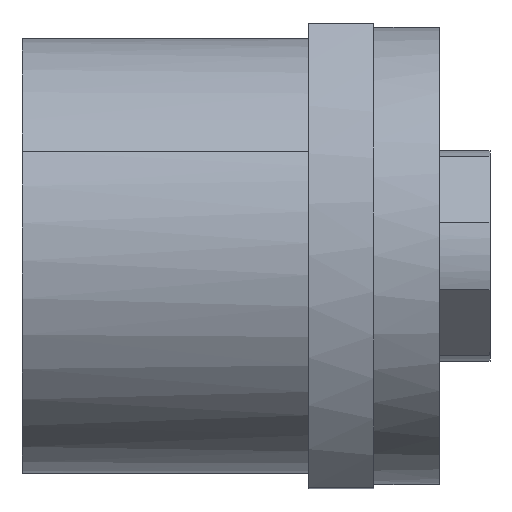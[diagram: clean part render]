
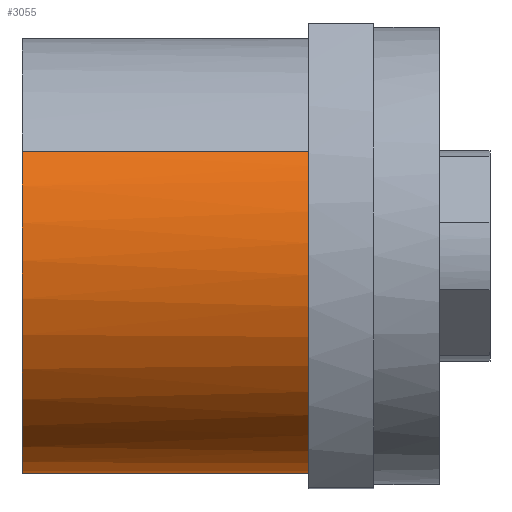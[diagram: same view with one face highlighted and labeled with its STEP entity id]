
A CAD part, top view. The second image highlights one B-rep face of the part: STEP entity #3055.
In plain terms, the highlighted cylindrical face has radius 60 mm (diameter 120 mm), a partial arc.
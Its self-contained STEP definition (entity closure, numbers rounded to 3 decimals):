
#1923=CARTESIAN_POINT('Vertex',(-18.,28.766,52.655)) ;
#1925=CARTESIAN_POINT('Vertex',(-18.,-28.766,-52.655)) ;
#1929=CARTESIAN_POINT('Control Point',(-18.,-28.766,-52.655)) ;
#1930=CARTESIAN_POINT('Control Point',(-18.,-33.761,-49.926)) ;
#1931=CARTESIAN_POINT('Control Point',(-18.,-38.432,-46.605)) ;
#1932=CARTESIAN_POINT('Control Point',(-18.,-42.687,-42.742)) ;
#1933=CARTESIAN_POINT('Control Point',(-18.,-50.198,-34.082)) ;
#1934=CARTESIAN_POINT('Control Point',(-18.,-55.476,-23.905)) ;
#1935=CARTESIAN_POINT('Control Point',(-18.,-57.497,-18.526)) ;
#1936=CARTESIAN_POINT('Control Point',(-18.,-60.223,-7.391)) ;
#1937=CARTESIAN_POINT('Control Point',(-18.,-60.27,4.073)) ;
#1938=CARTESIAN_POINT('Control Point',(-18.,-59.61,9.781)) ;
#1939=CARTESIAN_POINT('Control Point',(-18.,-56.95,20.932)) ;
#1940=CARTESIAN_POINT('Control Point',(-18.,-51.755,31.152)) ;
#1941=CARTESIAN_POINT('Control Point',(-18.,-48.561,35.929)) ;
#1942=CARTESIAN_POINT('Control Point',(-18.,-41.101,44.633)) ;
#1943=CARTESIAN_POINT('Control Point',(-18.,-31.813,51.352)) ;
#1944=CARTESIAN_POINT('Control Point',(-18.,-26.789,54.142)) ;
#1945=CARTESIAN_POINT('Control Point',(-18.,-16.177,58.479)) ;
#1946=CARTESIAN_POINT('Control Point',(-18.,-4.845,60.213)) ;
#1947=CARTESIAN_POINT('Control Point',(-18.,0.898,60.401)) ;
#1948=CARTESIAN_POINT('Control Point',(-18.,10.167,59.598)) ;
#1949=CARTESIAN_POINT('Control Point',(-18.,19.074,57.054)) ;
#1950=CARTESIAN_POINT('Control Point',(-18.,22.415,55.826)) ;
#1951=CARTESIAN_POINT('Control Point',(-18.,25.653,54.355)) ;
#1952=CARTESIAN_POINT('Control Point',(-18.,28.766,52.655)) ;
#3013=CARTESIAN_POINT('Line Origine',(-82.781,28.766,52.655)) ;
#3017=CARTESIAN_POINT('Vertex',(-97.,28.766,52.655)) ;
#3020=CARTESIAN_POINT('Line Origine',(-82.781,-28.766,-52.655)) ;
#3024=CARTESIAN_POINT('Vertex',(-97.,-28.766,-52.655)) ;
#3039=CARTESIAN_POINT('Axis2P3D Location',(-82.781,0.,0.)) ;
#3044=CARTESIAN_POINT('Axis2P3D Location',(-97.,0.,0.)) ;
#3014=DIRECTION('Vector Direction',(-1.,0.,0.)) ;
#3021=DIRECTION('Vector Direction',(-1.,0.,0.)) ;
#3040=DIRECTION('Axis2P3D Direction',(-1.,0.,0.)) ;
#3041=DIRECTION('Axis2P3D XDirection',(0.,-0.479,-0.878)) ;
#3045=DIRECTION('Axis2P3D Direction',(-1.,0.,0.)) ;
#3042=AXIS2_PLACEMENT_3D('Cylinder Axis2P3D',#3039,#3040,#3041) ;
#3046=AXIS2_PLACEMENT_3D('Circle Axis2P3D',#3044,#3045,$) ;
#3050=ORIENTED_EDGE('',*,*,#3026,.F.) ;
#3051=ORIENTED_EDGE('',*,*,#1953,.T.) ;
#3052=ORIENTED_EDGE('',*,*,#3019,.T.) ;
#3053=ORIENTED_EDGE('',*,*,#3048,.T.) ;
#3015=VECTOR('Line Direction',#3014,1.) ;
#3022=VECTOR('Line Direction',#3021,1.) ;
#3055=ADVANCED_FACE('FK40DFF(H)',(#3054),#3043,.T.) ;
#1928=B_SPLINE_CURVE_WITH_KNOTS('',5,(#1929,#1930,#1931,#1932,#1933,#1934,#1935,#1936,#1937,#1938,#1939,#1940,#1941,#1942,#1943,#1944,#1945,#1946,#1947,#1948,#1949,#1950,#1951,#1952),.UNSPECIFIED.,.F.,.U.,(6,3,3,3,3,3,3,6),(0.,40.249,80.498,120.747,160.995,201.244,241.493,266.571),.UNSPECIFIED.) ;
#3047=CIRCLE('generated circle',#3046,60.) ;
#3043=CYLINDRICAL_SURFACE('generated cylinder',#3042,60.) ;
#1953=EDGE_CURVE('',#1926,#1924,#1928,.T.) ;
#3019=EDGE_CURVE('',#1924,#3018,#3016,.T.) ;
#3026=EDGE_CURVE('',#1926,#3025,#3023,.T.) ;
#3048=EDGE_CURVE('',#3018,#3025,#3047,.F.) ;
#3049=EDGE_LOOP('',(#3050,#3051,#3052,#3053)) ;
#3054=FACE_OUTER_BOUND('',#3049,.T.) ;
#3016=LINE('Line',#3013,#3015) ;
#3023=LINE('Line',#3020,#3022) ;
#1924=VERTEX_POINT('',#1923) ;
#1926=VERTEX_POINT('',#1925) ;
#3018=VERTEX_POINT('',#3017) ;
#3025=VERTEX_POINT('',#3024) ;
